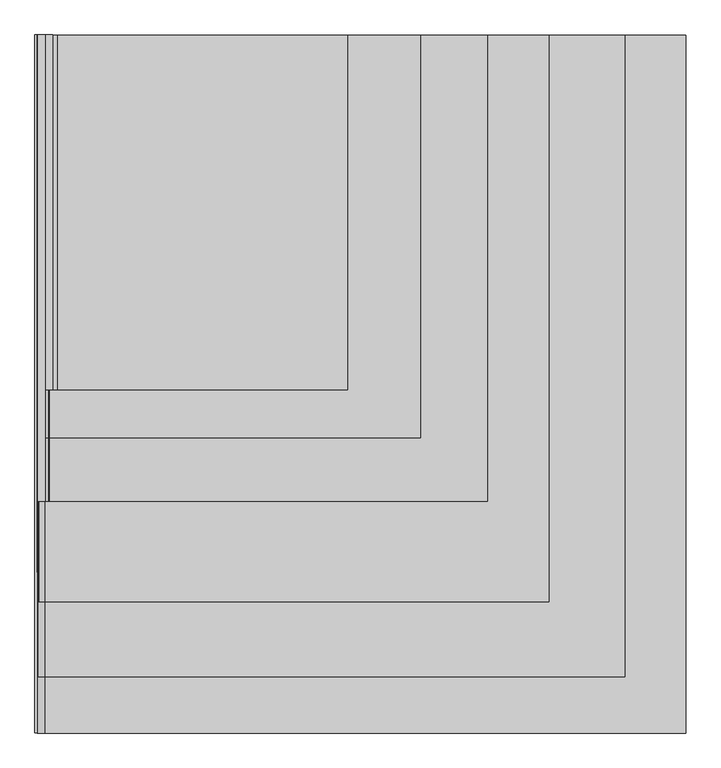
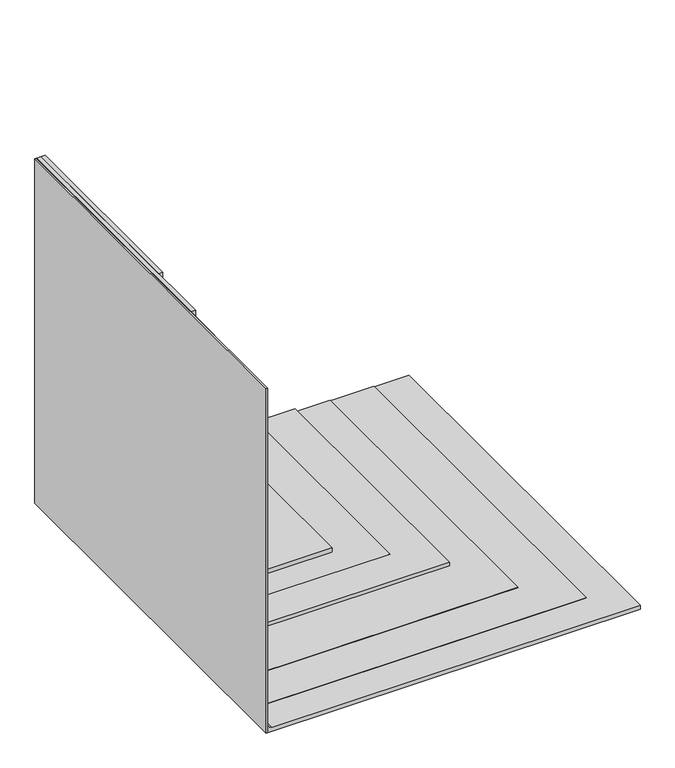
"""IFC4 building model written with IfcOpenShell, lengths in millimetres: proxy geometry, IMPER:IMPER:433934 : IMPER:IMPER:433934."""

import ifcopenshell
import ifcopenshell.guid

model = None  # the IFC model being written
_history = None  # IfcOwnerHistory: only IFC2X3 demands one
_inside = {}  # id of a spatial element -> (the spatial element, [elements in it])
_under = {}  # id of a project, library or spatial element -> (it, [spatial elements below it])
_declared = {}  # id of a project -> (the project, [libraries it declares])
_typed = {}  # id of a type object -> (the type object, [elements of that type])
_made_of = {}  # id of a material, layer set ... -> (it, [elements and type objects made of it])


def new_model(schema):
    """Start an empty IFC model of exactly this schema.

    Asked for "IFC4X3", IfcOpenShell would pick the latest addendum, in which some entities
    have other attributes; the version numbers below select the first issue.
    IFC2X3 requires an IfcOwnerHistory on every rooted entity: one is made here for all.
    """
    global model, _history
    if schema == "IFC4X3":
        model = ifcopenshell.file(schema_version=(4, 3, 0, 0))
    else:
        model = ifcopenshell.file(schema=schema)
    _inside.clear()
    _under.clear()
    _declared.clear()
    _typed.clear()
    _made_of.clear()
    _history = None
    if model.schema == "IFC2X3":
        org = make("IfcOrganization", Name="unknown")
        user = make(
            "IfcPersonAndOrganization",
            ThePerson=make("IfcPerson", FamilyName="unknown"),
            TheOrganization=org,
        )
        app = make(
            "IfcApplication",
            ApplicationDeveloper=org,
            Version="unknown",
            ApplicationFullName="unknown",
            ApplicationIdentifier="unknown",
        )
        _history = make(
            "IfcOwnerHistory",
            OwningUser=user,
            OwningApplication=app,
            ChangeAction="ADDED",
            CreationDate=0,
        )
    return model


def make(cls, **values):
    """One entity of the class cls with the attributes given. An attribute that is None is left unset."""
    return model.create_entity(
        cls, **{name: value for name, value in values.items() if value is not None}
    )


def rooted(cls, **values):
    """An entity with a GlobalId (a new one), such as an element, a storey or a relation."""
    return make(cls, GlobalId=ifcopenshell.guid.new(), OwnerHistory=_history, **values)


def si_unit(unit_type, name, prefix=None):
    """IfcSIUnit, for example si_unit("LENGTHUNIT", "METRE", prefix="MILLI")."""
    return make("IfcSIUnit", UnitType=unit_type, Prefix=prefix, Name=name)


def assignment(units):
    """IfcUnitAssignment: the units of a project."""
    return None if units is None else make("IfcUnitAssignment", Units=units)


def point(xyz):
    """IfcCartesianPoint."""
    return None if xyz is None else make("IfcCartesianPoint", Coordinates=xyz)


def direction(xyz):
    """IfcDirection."""
    return None if xyz is None else make("IfcDirection", DirectionRatios=xyz)


def frame(location, z_axis=None, x_axis=None):
    """IfcAxis2Placement3D, a coordinate frame: its origin and axes. An axis left out is left unset."""
    return make(
        "IfcAxis2Placement3D",
        Location=point(location),
        Axis=direction(z_axis),
        RefDirection=direction(x_axis),
    )


def frame_2d(location, x_axis=None):
    """IfcAxis2Placement2D, a coordinate frame in the plane: its origin and x axis."""
    return make(
        "IfcAxis2Placement2D", Location=point(location), RefDirection=direction(x_axis)
    )


def origin():
    """The frame at (0, 0, 0) with its axes left unset."""
    return frame((0.0, 0.0, 0.0))


def place(relative_to, where):
    """IfcLocalPlacement: puts the frame where relative to a parent placement (None: the world)."""
    return make(
        "IfcLocalPlacement", PlacementRelTo=relative_to, RelativePlacement=where
    )


def context(
    kind, dimensions, precision=None, world=None, true_north=None, identifier=None
):
    """IfcGeometricRepresentationContext, for example the 3D "Model" context."""
    return make(
        "IfcGeometricRepresentationContext",
        ContextIdentifier=identifier,
        ContextType=kind,
        CoordinateSpaceDimension=dimensions,
        Precision=precision,
        WorldCoordinateSystem=world,
        TrueNorth=true_north,
    )


def project(units=None, contexts=None):
    """IfcProject with its units and contexts."""
    return rooted(
        "IfcProject",
        Name="project",
        RepresentationContexts=contexts,
        UnitsInContext=assignment(units),
    )


def spatial(cls, under=None, at=None, **own):
    """A site, building, storey or space (cls), placed at a placement, below another one or the project."""
    s = rooted(cls, ObjectPlacement=at, **own)
    if under is not None:
        _under.setdefault(under.id(), (under, []))[1].append(s)
    return s


def polyline(points):
    """IfcPolyline through the points."""
    return make("IfcPolyline", Points=[point(p) for p in points])


def circle_curve(where, radius):
    """IfcCircle in the frame where."""
    return make("IfcCircle", Position=where, Radius=radius)


def trimmed(basis, trim1, trim2, sense, master):
    """IfcTrimmedCurve: the piece of a basis curve between two trims."""
    return make(
        "IfcTrimmedCurve",
        BasisCurve=basis,
        Trim1=trim1,
        Trim2=trim2,
        SenseAgreement=sense,
        MasterRepresentation=master,
    )


def segment(curve, same_sense, transition):
    """IfcCompositeCurveSegment."""
    return make(
        "IfcCompositeCurveSegment",
        Transition=transition,
        SameSense=same_sense,
        ParentCurve=curve,
    )


def composite_curve(segments, self_intersect=None):
    """IfcCompositeCurve: segments joined end to end."""
    return make("IfcCompositeCurve", Segments=segments, SelfIntersect=self_intersect)


def outline(outer, holes=None, kind="AREA"):
    """IfcArbitraryClosedProfileDef: a profile drawn as a closed curve; with holes, ...WithVoids."""
    if holes is None:
        return make("IfcArbitraryClosedProfileDef", ProfileType=kind, OuterCurve=outer)
    return make(
        "IfcArbitraryProfileDefWithVoids",
        ProfileType=kind,
        OuterCurve=outer,
        InnerCurves=holes,
    )


def extrude(swept, where, along, depth):
    """IfcExtrudedAreaSolid: the profile swept, set in the frame where, extruded along a direction by depth."""
    return make(
        "IfcExtrudedAreaSolid",
        SweptArea=swept,
        Position=where,
        ExtrudedDirection=direction(along),
        Depth=depth,
    )


def shape(context_of_items, identifier, shape_type, items):
    """IfcShapeRepresentation: the items that make up one representation, for example the "Body"."""
    return make(
        "IfcShapeRepresentation",
        ContextOfItems=context_of_items,
        RepresentationIdentifier=identifier,
        RepresentationType=shape_type,
        Items=items,
    )


def source(mapping_origin, context_of_items, identifier, shape_type, items):
    """IfcRepresentationMap: a shape defined once, which mapped items show again and again."""
    return make(
        "IfcRepresentationMap",
        MappingOrigin=mapping_origin,
        MappedRepresentation=shape(context_of_items, identifier, shape_type, items),
    )


def transform(
    local_origin,
    x_axis=None,
    y_axis=None,
    z_axis=None,
    scale=None,
    scale2=None,
    scale3=None,
    uniform=True,
):
    """IfcCartesianTransformationOperator3D, or its non-uniform kind. x_axis, y_axis, z_axis: its Axis1, 2, 3."""
    if uniform:
        return make(
            "IfcCartesianTransformationOperator3D",
            Axis1=direction(x_axis),
            Axis2=direction(y_axis),
            LocalOrigin=point(local_origin),
            Scale=scale,
            Axis3=direction(z_axis),
        )
    return make(
        "IfcCartesianTransformationOperator3DnonUniform",
        Axis1=direction(x_axis),
        Axis2=direction(y_axis),
        LocalOrigin=point(local_origin),
        Scale=scale,
        Axis3=direction(z_axis),
        Scale2=scale2,
        Scale3=scale3,
    )


def mapped(mapping_source, mapping_target):
    """IfcMappedItem: shows the shape of a source again, moved by a transform."""
    return make(
        "IfcMappedItem", MappingSource=mapping_source, MappingTarget=mapping_target
    )


def made_of(thing, what):
    """Note that an element or type object is made of a material, layer set ...; save() writes the relation."""
    if what is not None:
        _made_of.setdefault(what.id(), (what, []))[1].append(thing)
    return thing


def element(
    cls,
    number,
    at=None,
    inside=None,
    cuts=None,
    type_object=None,
    material=None,
    context=None,
    identifier="Body",
    shape_type=None,
    held_by="IfcProductDefinitionShape",
    body=None,
    shapes=None,
    **own,
):
    """One element of the class cls, such as IfcWall. Its Tag is "e" and its number.

    at: its placement. inside: the storey or other place that contains it. cuts: it is an
    opening in that element (IfcRelVoidsElement). A single representation is given by context,
    identifier, shape_type and body (its items); several are given by shapes. held_by: the class
    of the entity that holds the representations. save() writes the other relations.
    """
    e = rooted(cls, Tag="e%d" % number, ObjectPlacement=at, **own)
    if body is not None:
        shapes = [shape(context, identifier, shape_type, body)]
    if shapes is not None:
        e.Representation = make(held_by, Representations=shapes)
    if inside is not None:
        _inside.setdefault(inside.id(), (inside, []))[1].append(e)
    if cuts is not None:
        rooted(
            "IfcRelVoidsElement", RelatingBuildingElement=cuts, RelatedOpeningElement=e
        )
    if type_object is not None:
        _typed.setdefault(type_object.id(), (type_object, []))[1].append(e)
    return made_of(e, material)


def aggregate(whole, parts):
    """IfcRelAggregates: a whole, such as a stair, and the parts it consists of."""
    return rooted("IfcRelAggregates", RelatingObject=whole, RelatedObjects=parts)


def save(model, path):
    """Write the relations noted so far, then the file.

    IfcRelAggregates (storeys below a building ...), IfcRelContainedInSpatialStructure (elements
    in a storey), IfcRelDefinesByType, IfcRelAssociatesMaterial and IfcRelDeclares: one each for
    every whole, place, type object, material and project.
    """
    for whole, parts in _under.values():
        aggregate(whole, parts)
    for where, things in _inside.values():
        rooted(
            "IfcRelContainedInSpatialStructure",
            RelatedElements=things,
            RelatingStructure=where,
        )
    for kind, things in _typed.values():
        rooted("IfcRelDefinesByType", RelatedObjects=things, RelatingType=kind)
    for what, things in _made_of.values():
        rooted("IfcRelAssociatesMaterial", RelatedObjects=things, RelatingMaterial=what)
    for by, libraries in _declared.values():
        rooted("IfcRelDeclares", RelatingContext=by, RelatedDefinitions=libraries)
    model.write(path)


def generic_models_d6b91a3f(model_context):
    return source(origin(), model_context, "Body", "SweptSolid", [
        extrude(outline(composite_curve([segment(polyline([(32.5018705, -313.1030023), (32.5018705, 1435.2127274), (57.5018705, 1435.2127274), (57.5018705, -310.9591004), (2497.476202, -310.9591004), (2497.476202, -340.9704105), (167.9273941, -340.9704105), (162.916084, -335.9591004), (56.7242861, -335.9591004), (56.7242861, -336.9591004)]), True, "CONTINUOUS"), segment(trimmed(circle_curve(frame_2d((57.476202, -311.9704105)), 25.0), [point((56.7242861, -336.9591004))], [point((32.5018705, -313.1030023))], False, "CARTESIAN"), True, "CONTINUOUS")], self_intersect=False)), frame((0.0, -1694.1090661, 0.0), z_axis=(0.0, 1.0, 0.0), x_axis=(0.0, 0.0, 1.0)), (0.0, 0.0, 1.0), 1839.9790855),
        extrude(outline(polyline([(162.5018705, -336.9591004), (56.7242861, -336.9591004), (56.7242861, -335.9591004), (162.916084, -335.9591004), (167.9273941, -340.9704105), (2497.476202, -340.9704105), (2497.476202, -341.9704105), (166.5018705, -341.9704105), (166.5018705, -340.9591004), (162.5018705, -336.9591004)])), frame((0.0, -1975.1610544, 0.0), z_axis=(0.0, 1.0, 0.0), x_axis=(0.0, 0.0, 1.0)), (0.0, 0.0, 1.0), 2121.0310739),
        extrude(outline(polyline([(-351.9704105, 145.8700195), (-341.9704105, 145.8700195), (-341.9704105, -2608.4880222), (-351.9704105, -2608.4880222), (-351.9704105, 145.8700195)])), frame((0.0, 0.0, -2.523798), z_axis=(0.0, 0.0, 1.0), x_axis=(1.0, 0.0, 0.0)), (0.0, 0.0, 1.0), 2500.0),
        extrude(outline(composite_curve([segment(polyline([(-311.9704105, 27.476202), (2218.0295895, 27.476202), (2218.0295895, -2.523798), (-341.9704105, -2.523798), (-341.9704105, 57.476202)]), True, "CONTINUOUS"), segment(trimmed(circle_curve(frame_2d((-311.9704105, 57.476202)), 30.0), [point((-341.9704105, 57.476202))], [point((-311.9704105, 27.476202))], True, "CARTESIAN"), True, "CONTINUOUS")], self_intersect=False)), frame((0.0, 145.8700195, 0.0), z_axis=(0.0, -1.0, 0.0), x_axis=(1.0, 0.0, 0.0)), (0.0, 0.0, 1.0), 2754.3580417),
        extrude(outline(composite_curve([segment(polyline([(56.6663512, -340.9591004), (166.5018705, -340.9591004), (166.5018705, -341.9704105), (57.476202, -341.9704105)]), True, "CONTINUOUS"), segment(trimmed(circle_curve(frame_2d((57.476202, -311.9704105)), 30.0), [point((57.476202, -341.9704105))], [point((27.476202, -311.9704105))], False, "CARTESIAN"), True, "CONTINUOUS"), segment(polyline([(27.476202, -311.9704105), (27.476202, 1978.0295895), (28.5018705, 1978.0295895), (28.5018705, -313.1902924)]), True, "CONTINUOUS"), segment(trimmed(circle_curve(frame_2d((57.476202, -311.9704105)), 29.0), [point((28.5018705, -313.1902924))], [point((56.6663512, -340.9591004))], True, "CARTESIAN"), True, "CONTINUOUS")], self_intersect=False)), frame((0.0, -2385.98401, 0.0), z_axis=(0.0, 1.0, 0.0), x_axis=(0.0, 0.0, 1.0)), (0.0, 0.0, 1.0), 2531.8540295),
        extrude(outline(composite_curve([segment(polyline([(56.7242861, -336.9591004), (162.5018705, -336.9591004), (166.5018705, -340.9591004), (56.6663512, -340.9591004)]), True, "CONTINUOUS"), segment(trimmed(circle_curve(frame_2d((57.476202, -311.9704105)), 29.0), [point((56.6663512, -340.9591004))], [point((28.5018705, -313.1902924))], False, "CARTESIAN"), True, "CONTINUOUS"), segment(polyline([(28.5018705, -313.1902924), (28.5018705, 1678.0295895), (32.5018705, 1678.0295895), (32.5018705, -313.1030023)]), True, "CONTINUOUS"), segment(trimmed(circle_curve(frame_2d((57.476202, -311.9704105)), 25.0), [point((32.5018705, -313.1030023))], [point((56.7242861, -336.9591004))], True, "CARTESIAN"), True, "CONTINUOUS")], self_intersect=False)), frame((0.0, -2091.0492051, 0.0), z_axis=(0.0, 1.0, 0.0), x_axis=(0.0, 0.0, 1.0)), (0.0, 0.0, 1.0), 2236.9192246),
        extrude(outline(polyline([(58.5018705, -310.9591004), (58.5018705, 881.9874342), (88.5018705, 881.9874342), (88.5018705, -262.4331394), (75.9018705, -262.4331394), (75.9018705, -280.9591004), (88.5018705, -280.9591004), (2497.476202, -280.9591004), (2497.476202, -310.9591004), (58.5018705, -310.9591004)])), frame((0.0, -1254.1299805, 0.0), z_axis=(0.0, 1.0, 0.0), x_axis=(0.0, 0.0, 1.0)), (0.0, 0.0, 1.0), 1400.0),
        extrude(outline(polyline([(-296.4591004, 145.8700195), (-295.4591004, 145.8700195), (-295.4591004, -1694.1090661), (-296.4591004, -1694.1090661), (-296.4591004, 145.8700195)])), frame((0.0, 0.0, 88.5018705), z_axis=(0.0, 0.0, 1.0), x_axis=(1.0, 0.0, 0.0)), (0.0, 0.0, 1.0), 400.0),
        extrude(outline(polyline([(1170.3053101, 145.8700195), (1170.3053101, -1443.4626514), (-310.9591004, -1443.4626514), (-310.9591004, 145.8700195), (1170.3053101, 145.8700195)])), frame((0.0, 0.0, 57.5018705), z_axis=(0.0, 0.0, 1.0), x_axis=(1.0, 0.0, 0.0)), (0.0, 0.0, 1.0), 1.0),
        extrude(outline(polyline([(-262.4331394, 145.8700195), (-262.4331394, -1254.1299805), (-280.9591004, -1254.1299805), (-280.9591004, 145.8700195), (-262.4331394, 145.8700195)])), frame((0.0, 0.0, 75.9018705), z_axis=(0.0, 0.0, 1.0), x_axis=(1.0, 0.0, 0.0)), (0.0, 0.0, 1.0), 12.6),
    ])


if __name__ == "__main__":
    model = new_model("IFC4")
    model_context = context("Model", 3, world=origin())
    ifc_project = project(units=[si_unit("LENGTHUNIT", "METRE", prefix="MILLI")], contexts=[model_context])
    site = spatial("IfcSite", under=ifc_project)
    building = spatial("IfcBuilding", under=site)
    placement = place(None, origin())
    generic_models_shape = generic_models_d6b91a3f(model_context)
    element("IfcBuildingElementProxy", 1, Name="IMPER:IMPER:433934 : IMPER:IMPER:433934", ObjectType="IMPER:IMPER:433934 : IMPER:IMPER:433934", at=placement, inside=building, context=model_context, shape_type="MappedRepresentation", body=[
        mapped(generic_models_shape, transform((0.0, 0.0, 0.0), x_axis=(1.0, 0.0, 0.0), y_axis=(0.0, 1.0, 0.0), z_axis=(0.0, 0.0, 1.0))),
    ])
    save(model, "model.ifc")
